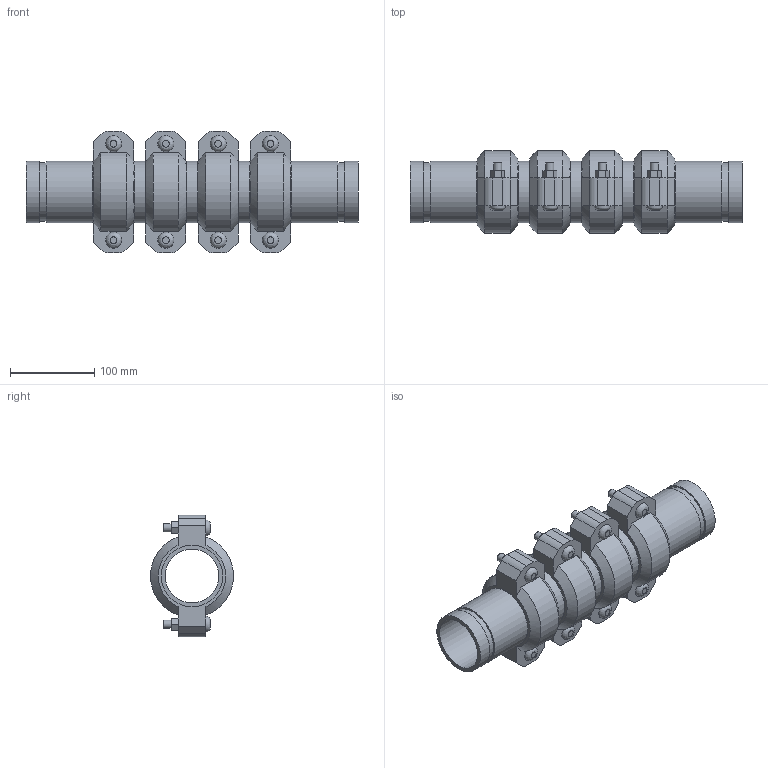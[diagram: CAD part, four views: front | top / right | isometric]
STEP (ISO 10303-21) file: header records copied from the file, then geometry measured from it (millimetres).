
FILE_DESCRIPTION(/* description */ ('VIC SS EXPANSION JOINT 4 COUPLINGS EXPANDED STYLE 155P (OGS) (POTABLE WATER) ','CAx-IF Rec.Pracs.---Representation and Presentation of Product Manufacturing Information (PMI)---4.0---2014-10-13'),/* implementation_level */ '2;1');
FILE_NAME(/* name */ 'C:\Users\kkamble\AppData\Roaming\Autodesk\ApplicationPlugins\Victaulic.Temp\A557\Victaulic_SS_Expansion Joint_Expanded_4 Couplings_Style 155P (OGS)-Potable Water_4 Coup_Expd_2.5 (65).stp',/* time_stamp */ '2021-07-16T16:51:19+05:00',/* author */ ('kkamble'),/* organization */ ('Victaulic'),/* preprocessor_version */ 'ST-DEVELOPER v17.2',/* originating_system */ 'Autodesk Inventor 2019',/* authorisation */ '');
FILE_SCHEMA (('AP242_MANAGED_MODEL_BASED_3D_ENGINEERING_MIM_LF { 1 0 10303 442 1 1 4 }'));
Length unit declared in the file: inch
Products named in the file (4): 155P-02.5; Nipple-02.5; Nipple-02.5_1; 075-02.5
Assembly tree (9 placements, depth 2):
  155P-02.5
    Nipple-02.5  x2
    Nipple-02.5_1  x3
    075-02.5  x4
Bounding box: 393.45 x 98.22 x 144.27 mm (x, y, z)
Volume: 1224085.2 mm3; surface area: 360258.6 mm2
Topology: 9 solids, 17 shells, 288 faces, 682 edges, 480 vertices
Faces by surface type: plane 174, cylinder 90, cone 16, bspline 8
Full cylindrical faces by diameter (mm): 9.525 x16, 11.43 x8, 63.475 x5, 66.675 x4, 69.088 x10, 73.025 x23
Entity records: 2776 total; most frequent: CARTESIAN_POINT 493, DIRECTION 461, ORIENTED_EDGE 386, EDGE_CURVE 193, AXIS2_PLACEMENT_3D 184, VERTEX_POINT 138, EDGE_LOOP 107, LINE 93
